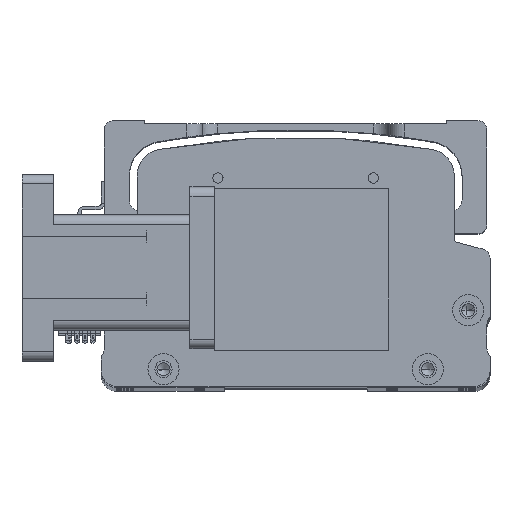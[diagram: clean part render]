
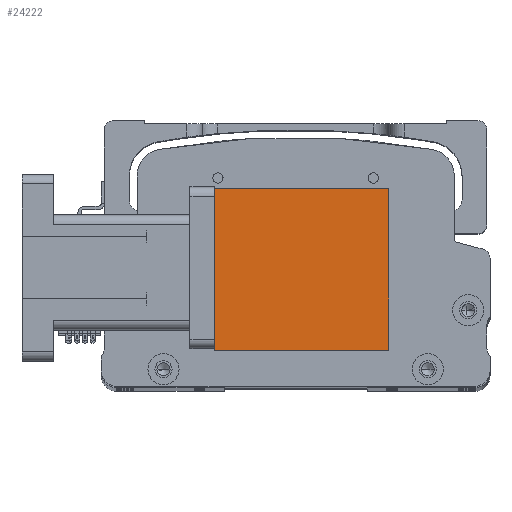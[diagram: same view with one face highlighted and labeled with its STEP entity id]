
A CAD part, top view. The second image highlights one B-rep face of the part: STEP entity #24222.
In plain terms, the highlighted planar face has unit normal (0, 0, 1) as drawn and (-1, 0, 0) by its records, which use the part's own axes.
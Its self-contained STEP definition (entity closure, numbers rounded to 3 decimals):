
#27 = VECTOR ( 'NONE', #33251, 1000. ) ;
#2373 = VECTOR ( 'NONE', #9910, 1000. ) ;
#2596 = PLANE ( 'NONE',  #29889 ) ;
#3007 = CARTESIAN_POINT ( 'NONE',  ( -31.5, -26., 56. ) ) ;
#3130 = VERTEX_POINT ( 'NONE', #17829 ) ;
#3868 = ORIENTED_EDGE ( 'NONE', *, *, #35066, .T. ) ;
#5073 = EDGE_LOOP ( 'NONE', ( #3868, #8481, #28074, #14857 ) ) ;
#6690 = CARTESIAN_POINT ( 'NONE',  ( -31.5, -26., 56. ) ) ;
#8361 = EDGE_CURVE ( 'NONE', #25923, #41410, #23642, .T. ) ;
#8481 = ORIENTED_EDGE ( 'NONE', *, *, #8361, .F. ) ;
#9910 = DIRECTION ( 'NONE',  ( 0., -1., 0. ) ) ;
#9933 = CARTESIAN_POINT ( 'NONE',  ( -31.5, 26., 56. ) ) ;
#14090 = CARTESIAN_POINT ( 'NONE',  ( -31.5, 26., 56. ) ) ;
#14857 = ORIENTED_EDGE ( 'NONE', *, *, #28531, .T. ) ;
#14964 = CARTESIAN_POINT ( 'NONE',  ( -31.5, -26., 0. ) ) ;
#15863 = DIRECTION ( 'NONE',  ( 0., 0., -1. ) ) ;
#16458 = FACE_OUTER_BOUND ( 'NONE', #5073, .T. ) ;
#16725 = VECTOR ( 'NONE', #37520, 1000. ) ;
#17829 = CARTESIAN_POINT ( 'NONE',  ( -31.5, 26., 0. ) ) ;
#18227 = CARTESIAN_POINT ( 'NONE',  ( -31.5, -26., 56. ) ) ;
#18797 = DIRECTION ( 'NONE',  ( 0., 0., -1. ) ) ;
#19249 = EDGE_CURVE ( 'NONE', #32583, #25923, #28115, .T. ) ;
#23642 = LINE ( 'NONE', #3007, #39780 ) ;
#24222 = ADVANCED_FACE ( 'NONE', ( #16458 ), #2596, .F. ) ;
#25743 = LINE ( 'NONE', #14090, #27 ) ;
#25923 = VERTEX_POINT ( 'NONE', #18227 ) ;
#28074 = ORIENTED_EDGE ( 'NONE', *, *, #19249, .F. ) ;
#28115 = LINE ( 'NONE', #6690, #2373 ) ;
#28531 = EDGE_CURVE ( 'NONE', #32583, #3130, #25743, .T. ) ;
#29875 = CARTESIAN_POINT ( 'NONE',  ( -31.5, -26., 0. ) ) ;
#29889 = AXIS2_PLACEMENT_3D ( 'NONE', #31670, #38128, #18797 ) ;
#31670 = CARTESIAN_POINT ( 'NONE',  ( -31.5, -26., 56. ) ) ;
#32583 = VERTEX_POINT ( 'NONE', #9933 ) ;
#33251 = DIRECTION ( 'NONE',  ( 0., 0., -1. ) ) ;
#33857 = LINE ( 'NONE', #14964, #16725 ) ;
#35066 = EDGE_CURVE ( 'NONE', #3130, #41410, #33857, .T. ) ;
#37520 = DIRECTION ( 'NONE',  ( 0., -1., 0. ) ) ;
#38128 = DIRECTION ( 'NONE',  ( 1., 0., 0. ) ) ;
#39780 = VECTOR ( 'NONE', #15863, 1000. ) ;
#41410 = VERTEX_POINT ( 'NONE', #29875 ) ;
